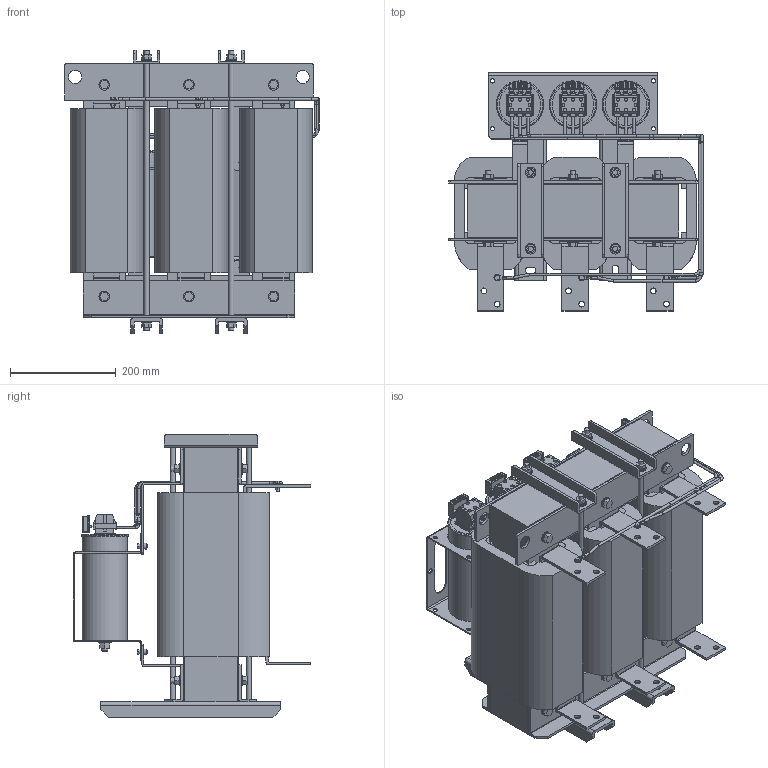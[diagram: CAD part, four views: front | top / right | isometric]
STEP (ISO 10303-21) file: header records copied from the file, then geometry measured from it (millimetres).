
FILE_DESCRIPTION (( 'STEP AP203' ), '1' );
FILE_NAME ('蔓躅漤铋 耔眢耥 翳朦蝠 _ ISINOF-220_449-4.STEP', '2026-07-20T14:02:43', ( '' ), ( '' ), 'SwSTEP 2.0', 'SolidWorks 2021', '' );
FILE_SCHEMA (( 'CONFIG_CONTROL_DESIGN' ));
Length unit declared in the file: millimetre
Products named in the file (195): 220KW淏玾疏薦疏萇蕨ん_48; 220KW淏玾疏薦疏萇蕨ん_7; 220KW淏玾疏薦疏萇蕨ん_132; 220KW淏玾疏薦疏萇蕨ん_1; 220KW淏玾疏薦疏萇蕨ん_98; 220KW淏玾疏薦疏萇蕨ん_73; 220KW淏玾疏薦疏萇蕨ん_23; 220KW淏玾疏薦疏萇蕨ん_102; 220KW淏玾疏薦疏萇蕨ん_79; 220KW淏玾疏薦疏萇蕨ん_177; 220KW淏玾疏薦疏萇蕨ん_174; 220KW淏玾疏薦疏萇蕨ん_18; 220KW淏玾疏薦疏萇蕨ん_180; 220KW淏玾疏薦疏萇蕨ん_147; 220KW淏玾疏薦疏萇蕨ん_123; 220KW淏玾疏薦疏萇蕨ん_116; 220KW淏玾疏薦疏萇蕨ん_82; 220KW淏玾疏薦疏萇蕨ん_175; 220KW淏玾疏薦疏萇蕨ん_71; 220KW淏玾疏薦疏萇蕨ん_154; 220KW淏玾疏薦疏萇蕨ん_80; 220KW淏玾疏薦疏萇蕨ん_19; 220KW淏玾疏薦疏萇蕨ん_8; 220KW淏玾疏薦疏萇蕨ん_164; 220KW淏玾疏薦疏萇蕨ん_139; 220KW淏玾疏薦疏萇蕨ん_94; 220KW淏玾疏薦疏萇蕨ん_107; 220KW淏玾疏薦疏萇蕨ん_91; 220KW淏玾疏薦疏萇蕨ん_184; 220KW淏玾疏薦疏萇蕨ん_53; 220KW淏玾疏薦疏萇蕨ん_138; 220KW淏玾疏薦疏萇蕨ん_63; 220KW淏玾疏薦疏萇蕨ん_148; 220KW淏玾疏薦疏萇蕨ん_101; 220KW淏玾疏薦疏萇蕨ん_67; 220KW淏玾疏薦疏萇蕨ん_135; 220KW淏玾疏薦疏萇蕨ん_49; 220KW淏玾疏薦疏萇蕨ん_115; 220KW淏玾疏薦疏萇蕨ん_122; 220KW淏玾疏薦疏萇蕨ん_155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
Assembly tree (194 placements, depth 2):
  蔓躅漤铋 耔眢耥 翳朦蝠 _ ISINOF-220_449-4
    220KW淏玾疏薦疏萇蕨ん_123
    220KW淏玾疏薦疏萇蕨ん_75
    220KW淏玾疏薦疏萇蕨ん_53
    220KW淏玾疏薦疏萇蕨ん_3
    220KW淏玾疏薦疏萇蕨ん_13
    220KW淏玾疏薦疏萇蕨ん_118
    220KW淏玾疏薦疏萇蕨ん_158
    220KW淏玾疏薦疏萇蕨ん_90
    220KW淏玾疏薦疏萇蕨ん_33
    220KW淏玾疏薦疏萇蕨ん_107
    220KW淏玾疏薦疏萇蕨ん_182
    220KW淏玾疏薦疏萇蕨ん_103
    220KW淏玾疏薦疏萇蕨ん_49
    220KW淏玾疏薦疏萇蕨ん_92
    220KW淏玾疏薦疏萇蕨ん_168
    220KW淏玾疏薦疏萇蕨ん_113
    220KW淏玾疏薦疏萇蕨ん_132
    220KW淏玾疏薦疏萇蕨ん_80
    220KW淏玾疏薦疏萇蕨ん_165
    220KW淏玾疏薦疏萇蕨ん_96
    220KW淏玾疏薦疏萇蕨ん_82
    220KW淏玾疏薦疏萇蕨ん_129
    220KW淏玾疏薦疏萇蕨ん_27
    220KW淏玾疏薦疏萇蕨ん_126
    220KW淏玾疏薦疏萇蕨ん_4
    220KW淏玾疏薦疏萇蕨ん_157
    220KW淏玾疏薦疏萇蕨ん_40
    220KW淏玾疏薦疏萇蕨ん_184
    220KW淏玾疏薦疏萇蕨ん_147
    220KW淏玾疏薦疏萇蕨ん_94
    220KW淏玾疏薦疏萇蕨ん_186
    220KW淏玾疏薦疏萇蕨ん_121
    220KW淏玾疏薦疏萇蕨ん_139
    220KW淏玾疏薦疏萇蕨ん_155
    220KW淏玾疏薦疏萇蕨ん_141
    220KW淏玾疏薦疏萇蕨ん_170
    220KW淏玾疏薦疏萇蕨ん_16
    220KW淏玾疏薦疏萇蕨ん_166
    220KW淏玾疏薦疏萇蕨ん_88
    220KW淏玾疏薦疏萇蕨ん_62
    220KW淏玾疏薦疏萇蕨ん_187
    220KW淏玾疏薦疏萇蕨ん_54
    220KW淏玾疏薦疏萇蕨ん_74
    220KW淏玾疏薦疏萇蕨ん_14
    220KW淏玾疏薦疏萇蕨ん_66
    220KW淏玾疏薦疏萇蕨ん_1
    220KW淏玾疏薦疏萇蕨ん_10
    220KW淏玾疏薦疏萇蕨ん_136
    220KW淏玾疏薦疏萇蕨ん_67
    220KW淏玾疏薦疏萇蕨ん_188
    220KW淏玾疏薦疏萇蕨ん_143
    220KW淏玾疏薦疏萇蕨ん_167
    220KW淏玾疏薦疏萇蕨ん_146
    220KW淏玾疏薦疏萇蕨ん_124
    220KW淏玾疏薦疏萇蕨ん_50
    220KW淏玾疏薦疏萇蕨ん_120
    220KW淏玾疏薦疏萇蕨ん_115
    220KW淏玾疏薦疏萇蕨ん_181
    220KW淏玾疏薦疏萇蕨ん_35
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Bounding box: 481.54 x 449.5 x 534.95 mm (x, y, z)
Volume: 35501130.4 mm3; surface area: 3818981.5 mm2
Topology: 194 solids, 194 shells, 2354 faces, 5801 edges, 3842 vertices
Faces by surface type: plane 1629, cylinder 645, bspline 43, torus 34, cone 3
Full cylindrical faces by diameter (mm): 4.8 x3, 5 x58, 6 x12, 6.3 x36, 6.4 x3, 7 x3, 8 x8, 9.6 x4, 10 x12, 11 x16, 12 x7, 13 x3, 15.588 x14, 20 x44, 24 x3, 25 x4, 78.861 x3, 86 x3, 89 x3, 90 x3
Entity records: 92616 total; most frequent: CARTESIAN_POINT 16146, DIRECTION 11316, ORIENTED_EDGE 10988, EDGE_CURVE 5494, LINE 4076, VECTOR 4076, VERTEX_POINT 3815, AXIS2_PLACEMENT_3D 3620
